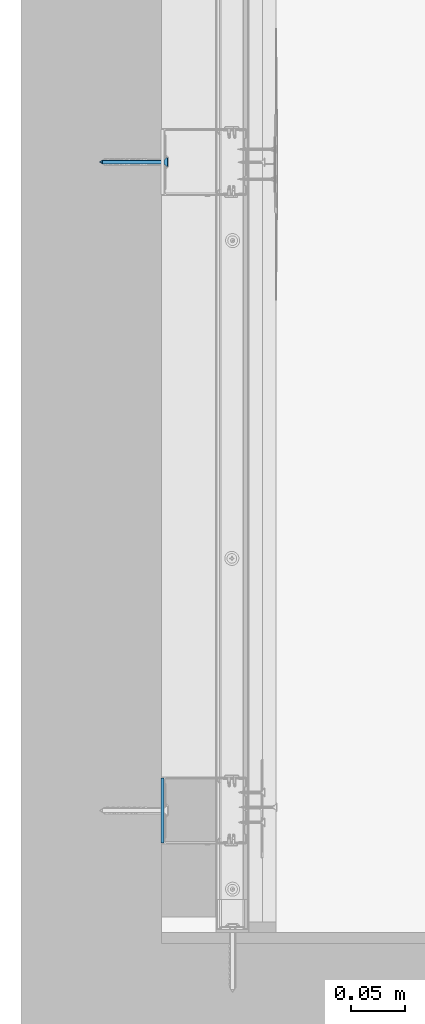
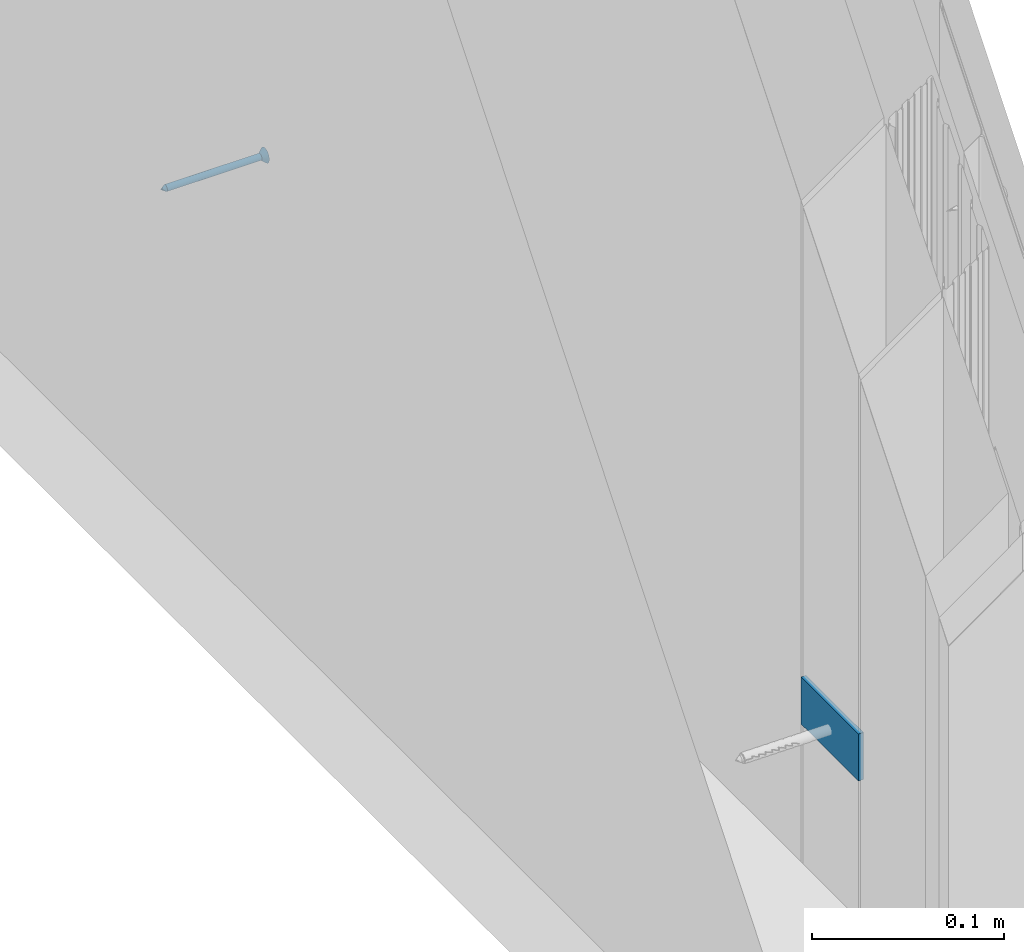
# One storey, part 31 of 61: 2 walls.
"""IFC2X3 building model written with IfcOpenShell, lengths in millimetres."""

import ifcopenshell
import ifcopenshell.guid

model = None  # the IFC model being written
_history = None  # IfcOwnerHistory: only IFC2X3 demands one
_inside = {}  # id of a spatial element -> (the spatial element, [elements in it])
_under = {}  # id of a project, library or spatial element -> (it, [spatial elements below it])
_declared = {}  # id of a project -> (the project, [libraries it declares])
_typed = {}  # id of a type object -> (the type object, [elements of that type])
_made_of = {}  # id of a material, layer set ... -> (it, [elements and type objects made of it])


def new_model(schema):
    """Start an empty IFC model of exactly this schema.

    Asked for "IFC4X3", IfcOpenShell would pick the latest addendum, in which some entities
    have other attributes; the version numbers below select the first issue.
    IFC2X3 requires an IfcOwnerHistory on every rooted entity: one is made here for all.
    """
    global model, _history
    if schema == "IFC4X3":
        model = ifcopenshell.file(schema_version=(4, 3, 0, 0))
    else:
        model = ifcopenshell.file(schema=schema)
    _inside.clear()
    _under.clear()
    _declared.clear()
    _typed.clear()
    _made_of.clear()
    _history = None
    if model.schema == "IFC2X3":
        org = make("IfcOrganization", Name="unknown")
        user = make(
            "IfcPersonAndOrganization",
            ThePerson=make("IfcPerson", FamilyName="unknown"),
            TheOrganization=org,
        )
        app = make(
            "IfcApplication",
            ApplicationDeveloper=org,
            Version="unknown",
            ApplicationFullName="unknown",
            ApplicationIdentifier="unknown",
        )
        _history = make(
            "IfcOwnerHistory",
            OwningUser=user,
            OwningApplication=app,
            ChangeAction="ADDED",
            CreationDate=0,
        )
    return model


def make(cls, **values):
    """One entity of the class cls with the attributes given. An attribute that is None is left unset."""
    return model.create_entity(
        cls, **{name: value for name, value in values.items() if value is not None}
    )


def rooted(cls, **values):
    """An entity with a GlobalId (a new one), such as an element, a storey or a relation."""
    return make(cls, GlobalId=ifcopenshell.guid.new(), OwnerHistory=_history, **values)


def si_unit(unit_type, name, prefix=None):
    """IfcSIUnit, for example si_unit("LENGTHUNIT", "METRE", prefix="MILLI")."""
    return make("IfcSIUnit", UnitType=unit_type, Prefix=prefix, Name=name)


def assignment(units):
    """IfcUnitAssignment: the units of a project."""
    return None if units is None else make("IfcUnitAssignment", Units=units)


def point(xyz):
    """IfcCartesianPoint."""
    return None if xyz is None else make("IfcCartesianPoint", Coordinates=xyz)


def direction(xyz):
    """IfcDirection."""
    return None if xyz is None else make("IfcDirection", DirectionRatios=xyz)


def frame(location, z_axis=None, x_axis=None):
    """IfcAxis2Placement3D, a coordinate frame: its origin and axes. An axis left out is left unset."""
    return make(
        "IfcAxis2Placement3D",
        Location=point(location),
        Axis=direction(z_axis),
        RefDirection=direction(x_axis),
    )


def origin_with_axes():
    """The frame at (0, 0, 0) with the z axis (0, 0, 1) and the x axis (1, 0, 0) written out."""
    return frame((0.0, 0.0, 0.0), z_axis=(0.0, 0.0, 1.0), x_axis=(1.0, 0.0, 0.0))


def place(relative_to, where):
    """IfcLocalPlacement: puts the frame where relative to a parent placement (None: the world)."""
    return make(
        "IfcLocalPlacement", PlacementRelTo=relative_to, RelativePlacement=where
    )


def context(
    kind, dimensions, precision=None, world=None, true_north=None, identifier=None
):
    """IfcGeometricRepresentationContext, for example the 3D "Model" context."""
    return make(
        "IfcGeometricRepresentationContext",
        ContextIdentifier=identifier,
        ContextType=kind,
        CoordinateSpaceDimension=dimensions,
        Precision=precision,
        WorldCoordinateSystem=world,
        TrueNorth=true_north,
    )


def subcontext(parent, identifier, kind, view, scale=None):
    """IfcGeometricRepresentationSubContext, for example "Body" below "Model"."""
    return make(
        "IfcGeometricRepresentationSubContext",
        ContextIdentifier=identifier,
        ContextType=kind,
        ParentContext=parent,
        TargetScale=scale,
        TargetView=view,
    )


def project(units=None, contexts=None):
    """IfcProject with its units and contexts."""
    return rooted(
        "IfcProject",
        Name="project",
        RepresentationContexts=contexts,
        UnitsInContext=assignment(units),
    )


def spatial(cls, under=None, at=None, **own):
    """A site, building, storey or space (cls), placed at a placement, below another one or the project."""
    s = rooted(cls, ObjectPlacement=at, **own)
    if under is not None:
        _under.setdefault(under.id(), (under, []))[1].append(s)
    return s


def faces_of(points, faces, orient=None, outer=None):
    """IfcFace entities. A face is a list of loops; a loop is a list of indices into points, from 0.

    orient and outer hold one flag for each loop. By default every Orientation is true, the
    first loop of a face is its IfcFaceOuterBound and the others are IfcFaceBound.
    """
    made = []
    for i, loops in enumerate(faces):
        bounds = []
        for j, loop in enumerate(loops):
            is_outer = j == 0 if outer is None else outer[i][j]
            bounds.append(
                make(
                    "IfcFaceOuterBound" if is_outer else "IfcFaceBound",
                    Bound=make("IfcPolyLoop", Polygon=[points[k] for k in loop]),
                    Orientation=True if orient is None else orient[i][j],
                )
            )
        made.append(make("IfcFace", Bounds=bounds))
    return made


def faceted_brep(points, faces, orient=None, outer=None, voids=None):
    """IfcFacetedBrep: a solid bounded by flat faces; with voids (closed shells), ...WithVoids."""
    shared = [point(p) for p in points]
    hull = make("IfcClosedShell", CfsFaces=faces_of(shared, faces, orient, outer))
    if voids is None:
        return make("IfcFacetedBrep", Outer=hull)
    return make(
        "IfcFacetedBrepWithVoids",
        Outer=hull,
        Voids=[
            make(cls, CfsFaces=faces_of(shared, fs, o, b)) for cls, fs, o, b in voids
        ],
    )


def shape(context_of_items, identifier, shape_type, items):
    """IfcShapeRepresentation: the items that make up one representation, for example the "Body"."""
    return make(
        "IfcShapeRepresentation",
        ContextOfItems=context_of_items,
        RepresentationIdentifier=identifier,
        RepresentationType=shape_type,
        Items=items,
    )


def material(Name=None, Category=None):
    """IfcMaterial."""
    return make("IfcMaterial", Name=Name, Category=Category)


def made_of(thing, what):
    """Note that an element or type object is made of a material, layer set ...; save() writes the relation."""
    if what is not None:
        _made_of.setdefault(what.id(), (what, []))[1].append(thing)
    return thing


def type_object(cls, material=None, **own):
    """A type object (cls), such as IfcWallType, which elements share."""
    return made_of(rooted(cls, **own), material)


def element(
    cls,
    number,
    at=None,
    inside=None,
    cuts=None,
    type_object=None,
    material=None,
    context=None,
    identifier="Body",
    shape_type=None,
    held_by="IfcProductDefinitionShape",
    body=None,
    shapes=None,
    **own,
):
    """One element of the class cls, such as IfcWall. Its Tag is "e" and its number.

    at: its placement. inside: the storey or other place that contains it. cuts: it is an
    opening in that element (IfcRelVoidsElement). A single representation is given by context,
    identifier, shape_type and body (its items); several are given by shapes. held_by: the class
    of the entity that holds the representations. save() writes the other relations.
    """
    e = rooted(cls, Tag="e%d" % number, ObjectPlacement=at, **own)
    if body is not None:
        shapes = [shape(context, identifier, shape_type, body)]
    if shapes is not None:
        e.Representation = make(held_by, Representations=shapes)
    if inside is not None:
        _inside.setdefault(inside.id(), (inside, []))[1].append(e)
    if cuts is not None:
        rooted(
            "IfcRelVoidsElement", RelatingBuildingElement=cuts, RelatedOpeningElement=e
        )
    if type_object is not None:
        _typed.setdefault(type_object.id(), (type_object, []))[1].append(e)
    return made_of(e, material)


def aggregate(whole, parts):
    """IfcRelAggregates: a whole, such as a stair, and the parts it consists of."""
    return rooted("IfcRelAggregates", RelatingObject=whole, RelatedObjects=parts)


def save(model, path):
    """Write the relations noted so far, then the file.

    IfcRelAggregates (storeys below a building ...), IfcRelContainedInSpatialStructure (elements
    in a storey), IfcRelDefinesByType, IfcRelAssociatesMaterial and IfcRelDeclares: one each for
    every whole, place, type object, material and project.
    """
    for whole, parts in _under.values():
        aggregate(whole, parts)
    for where, things in _inside.values():
        rooted(
            "IfcRelContainedInSpatialStructure",
            RelatedElements=things,
            RelatingStructure=where,
        )
    for kind, things in _typed.values():
        rooted("IfcRelDefinesByType", RelatedObjects=things, RelatingType=kind)
    for what, things in _made_of.values():
        rooted("IfcRelAssociatesMaterial", RelatedObjects=things, RelatingMaterial=what)
    for by, libraries in _declared.values():
        rooted("IfcRelDeclares", RelatingContext=by, RelatedDefinitions=libraries)
    model.write(path)


model = new_model("IFC2X3")

# Units and contexts
model_context = context("Model", 3, world=origin_with_axes())
body_context = subcontext(model_context, "Body", "Model", "MODEL_VIEW")
ifc_project = project(units=[si_unit("LENGTHUNIT", "METRE", prefix="MILLI"), si_unit("AREAUNIT", "SQUARE_METRE"), si_unit("VOLUMEUNIT", "CUBIC_METRE")], contexts=[model_context])

# Site, building, storey
site_placement = place(None, frame((2152.1410261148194, -2015.0250894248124, 57.61556563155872), z_axis=(0.0, 0.0, 1.0), x_axis=(-1.1102230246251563e-16, 1.0, 0.0)))
site = spatial("IfcSite", under=ifc_project, at=site_placement, Name="Default Site", CompositionType="ELEMENT")
building_placement = place(site_placement, origin_with_axes())
building = spatial("IfcBuilding", under=site, at=building_placement, Name="Default Building", CompositionType="ELEMENT")
storey_placement = place(building_placement, origin_with_axes())
storey = spatial("IfcBuildingStorey", under=building, at=storey_placement, Name="Default Building Storey", CompositionType="ELEMENT", Elevation=57.61556563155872)

# Walls
ifc_material = material(Name="Default")
wall_type_1 = type_object("IfcWallType", Name="Kołek rozporowy min. fi 6#13", PredefinedType="NOTDEFINED")
wall_1_placement = place(storey_placement, frame((6291.176283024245, 2016.3286110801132, 1539.6718902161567), z_axis=(-6.858158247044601e-13, -1.0, 7.64238051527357e-14), x_axis=(-1.6476028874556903e-11, 7.642380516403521e-14, 1.0)))
element("IfcWall", 1, at=wall_1_placement, inside=storey, type_object=wall_type_1, material=ifc_material, Name="Kołek rozporowy min. fi 6", context=body_context, shape_type="Brep", body=[
    faceted_brep([(-1438.3141994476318, 3453.2833099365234, -0.46425670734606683), (-1435.8141422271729, 3453.2833099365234, -3.464256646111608), (-1435.7895851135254, 3452.970266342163, -3.464256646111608), (-1438.2587671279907, 3452.579259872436, -0.46425670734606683), (-1435.7162714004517, 3452.6650905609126, -3.464256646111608), (-1438.093900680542, 3451.892614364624, -0.46425670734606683), (-1435.5961084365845, 3452.3751735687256, -3.464256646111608), (-1437.8236532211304, 3451.240301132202, -0.46425670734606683), (-1435.4321956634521, 3452.107667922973, -3.464256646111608), (-1437.4547004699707, 3450.6382942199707, -0.46425670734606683), (-1435.22834777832, 3451.8690109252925, -3.464256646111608), (-1436.9961023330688, 3450.101137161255, -0.46425670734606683), (-1434.9896907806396, 3451.665163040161, -3.464256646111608), (-1436.4591836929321, 3449.642658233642, -0.46425670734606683), (-1434.7221851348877, 3451.501131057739, -3.464256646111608), (-1435.8570575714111, 3449.2735862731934, -0.46425670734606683), (-1434.4321489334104, 3451.381206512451, -3.464256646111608), (-1435.2047443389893, 3449.0034580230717, -0.46425670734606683), (-1434.1269731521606, 3451.307773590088, -3.464256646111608), (-1434.5180988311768, 3448.838710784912, -0.46425670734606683), (-1433.8141679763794, 3451.28321647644, -3.464256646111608), (-1433.8141679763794, 3448.7831592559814, -0.46425670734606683), (-1433.5012435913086, 3451.307773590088, -3.464256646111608), (-1433.110237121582, 3448.838710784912, -0.46425670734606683), (-1433.1960678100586, 3451.381206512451, -3.464256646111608), (-1432.4235916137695, 3449.0034580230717, -0.46425670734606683), (-1432.9061508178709, 3451.501131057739, -3.464256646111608), (-1431.771159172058, 3449.2735862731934, -0.46425670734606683), (-1432.6385259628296, 3451.665163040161, -3.464256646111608), (-1431.1691522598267, 3449.642658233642, -0.46425670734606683), (-1432.3999881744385, 3451.8690109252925, -3.464256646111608), (-1430.6321144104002, 3450.101137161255, -0.46425670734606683), (-1432.1961402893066, 3452.107667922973, -3.464256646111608), (-1430.1735162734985, 3450.6382942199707, -0.46425670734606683), (-1432.0321083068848, 3452.3751735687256, -3.464256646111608), (-1429.8045635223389, 3451.240301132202, -0.46425670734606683), (-1431.9120645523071, 3452.6650905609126, -3.464256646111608), (-1429.5344352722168, 3451.892614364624, -0.46425670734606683), (-1431.8387508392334, 3453.5961151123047, -3.464256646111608), (-1429.369568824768, 3453.9871215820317, -0.46425670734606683), (-1429.314136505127, 3453.2833099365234, -0.46425670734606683), (-1431.814193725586, 3453.2833099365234, -3.464256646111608), (-1429.369568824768, 3452.579259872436, -0.46425670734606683), (-1431.8387508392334, 3452.970266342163, -3.464256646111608), (-1431.9120645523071, 3453.9012908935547, -3.464256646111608), (-1429.5344352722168, 3454.6737670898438, -0.46425670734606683), (-1432.0321083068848, 3454.191207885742, -3.464256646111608), (-1429.8045635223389, 3455.3260803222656, -0.46425670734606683), (-1432.1961402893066, 3454.458713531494, -3.464256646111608), (-1430.1735162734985, 3455.9283256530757, -0.46425670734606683), (-1432.3999881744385, 3454.6973705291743, -3.464256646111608), (-1430.6321144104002, 3456.465244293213, -0.46425670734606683), (-1432.6385259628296, 3454.9012184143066, -3.464256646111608), (-1431.1691522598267, 3456.923723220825, -0.46425670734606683), (-1432.9061508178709, 3455.065250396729, -3.464256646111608), (-1431.771159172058, 3457.2927951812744, -0.46425670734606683), (-1433.1960678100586, 3455.1854133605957, -3.464256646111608), (-1432.4235916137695, 3457.562923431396, -0.46425670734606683), (-1433.5012435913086, 3455.25860786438, -3.464256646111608), (-1433.110237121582, 3457.7279090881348, -0.46425670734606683), (-1433.8141679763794, 3455.283164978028, -3.464256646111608), (-1433.8141679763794, 3457.7832221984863, -0.46425670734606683), (-1434.3430995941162, 3457.7519893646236, -0.46425670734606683), (-1434.1269731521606, 3455.25860786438, -3.464256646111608), (-1434.4321489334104, 3455.1854133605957, -3.464256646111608), (-1434.8646402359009, 3457.6590061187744, -0.46425670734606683), (-1435.3716373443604, 3457.504987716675, -0.46425670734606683), (-1434.7221851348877, 3455.065250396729, -3.464256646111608), (-1435.8570575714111, 3457.2927951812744, -0.46425670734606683), (-1434.9896907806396, 3454.9012184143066, -3.464256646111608), (-1435.22834777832, 3454.6973705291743, -3.464256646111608), (-1436.3142251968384, 3457.024812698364, -0.46425670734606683), (-1436.7367029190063, 3456.705093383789, -0.46425670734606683), (-1437.118649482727, 3456.337928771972, -0.46425670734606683), (-1437.4547004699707, 3455.9283256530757, -0.46425670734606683), (-1435.4321956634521, 3454.458713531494, -3.464256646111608), (-1435.5961084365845, 3454.191207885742, -3.464256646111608), (-1437.8236532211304, 3455.3260803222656, -0.46425670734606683), (-1435.7162714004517, 3453.9012908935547, -3.464256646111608), (-1438.093900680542, 3454.6737670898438, -0.46425670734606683), (-1435.7895851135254, 3453.5961151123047, -3.464256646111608), (-1438.2587671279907, 3453.9871215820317, -0.46425670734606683), (-1434.2052936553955, 3455.752372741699, 0.20073754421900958), (-1433.8141679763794, 3455.7831287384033, 0.20073754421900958), (-1434.5866441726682, 3455.6608200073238, 0.20073754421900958), (-1434.9491596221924, 3455.510854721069, 0.20073754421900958), (-1435.2836608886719, 3455.305814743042, 0.20073754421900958), (-1435.581922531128, 3455.0509452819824, 0.20073754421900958), (-1435.836672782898, 3454.7526836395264, 0.20073754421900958), (-1436.0417127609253, 3454.418182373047, 0.20073754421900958), (-1436.1917972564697, 3454.0557861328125, 0.20073754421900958), (-1436.2833499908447, 3453.6743164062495, 0.20073754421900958), (-1436.3141059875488, 3453.2833099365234, 0.20073754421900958), (-1436.2833499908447, 3452.8920650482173, 0.20073754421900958), (-1436.1917972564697, 3452.5105953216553, 0.20073754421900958), (-1436.0417127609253, 3452.148199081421, 0.20073754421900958), (-1435.836672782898, 3451.8136978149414, 0.20073754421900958), (-1435.581922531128, 3451.5154361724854, 0.20073754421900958), (-1435.2836608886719, 3451.260566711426, 0.20073754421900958), (-1434.9491596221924, 3451.0557651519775, 0.20073754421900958), (-1434.5866441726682, 3450.905561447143, 0.20073754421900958), (-1433.4230422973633, 3450.8140087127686, 0.20073754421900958), (-1433.8141679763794, 3450.7832527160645, 0.20073754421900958), (-1434.2052936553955, 3450.8140087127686, 0.20073754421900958), (-1433.0415725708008, 3450.905561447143, 0.20073754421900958), (-1432.6791763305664, 3451.0557651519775, 0.20073754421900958), (-1432.344675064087, 3451.260566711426, 0.20073754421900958), (-1432.0464134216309, 3451.5154361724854, 0.20073754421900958), (-1431.7916631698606, 3451.8136978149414, 0.20073754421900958), (-1431.5866231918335, 3452.148199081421, 0.20073754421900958), (-1431.436538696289, 3452.5105953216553, 0.20073754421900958), (-1431.344985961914, 3452.8920650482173, 0.20073754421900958), (-1431.3141107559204, 3453.2833099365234, 0.20073754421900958), (-1431.344985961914, 3453.6743164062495, 0.20073754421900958), (-1431.436538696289, 3454.0557861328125, 0.20073754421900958), (-1431.5866231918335, 3454.418182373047, 0.20073754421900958), (-1431.7916631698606, 3454.7526836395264, 0.20073754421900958), (-1432.0464134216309, 3455.0509452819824, 0.20073754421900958), (-1432.344675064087, 3455.305814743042, 0.20073754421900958), (-1432.6791763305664, 3455.510854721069, 0.20073754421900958), (-1433.0415725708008, 3455.6608200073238, 0.20073754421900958), (-1433.4230422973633, 3455.752372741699, 0.20073754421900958), (-1433.8141679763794, 3453.2833099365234, -63.46425414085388), (-1435.7895851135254, 3452.970266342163, -60.464255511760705), (-1435.8141422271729, 3453.2833099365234, -60.464255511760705), (-1435.7162714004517, 3452.6650905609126, -60.464255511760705), (-1435.5961084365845, 3452.3751735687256, -60.464255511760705), (-1435.4321956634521, 3452.107667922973, -60.464255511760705), (-1435.22834777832, 3451.8690109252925, -60.464255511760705), (-1434.9896907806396, 3451.665163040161, -60.464255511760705), (-1434.7221851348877, 3451.501131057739, -60.464255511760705), (-1434.4321489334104, 3451.381206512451, -60.464255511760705), (-1434.1269731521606, 3451.307773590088, -60.464255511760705), (-1433.8141679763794, 3451.28321647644, -60.464255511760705), (-1433.5012435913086, 3451.307773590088, -60.464255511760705), (-1433.1960678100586, 3451.381206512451, -60.464255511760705), (-1432.9061508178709, 3451.501131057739, -60.464255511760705), (-1432.6385259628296, 3451.665163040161, -60.464255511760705), (-1432.3999881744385, 3451.8690109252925, -60.464255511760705), (-1432.1961402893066, 3452.107667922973, -60.464255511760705), (-1432.0321083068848, 3452.3751735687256, -60.464255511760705), (-1431.9120645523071, 3452.6650905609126, -60.464255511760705), (-1431.8387508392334, 3452.970266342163, -60.464255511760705), (-1431.814193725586, 3453.2833099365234, -60.464255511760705), (-1431.8387508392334, 3453.5961151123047, -60.464255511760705), (-1431.9120645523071, 3453.9012908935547, -60.464255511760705), (-1432.0321083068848, 3454.191207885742, -60.464255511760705), (-1432.1961402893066, 3454.458713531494, -60.464255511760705), (-1432.3999881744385, 3454.6973705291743, -60.464255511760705), (-1432.6385259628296, 3454.9012184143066, -60.464255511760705), (-1432.9061508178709, 3455.065250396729, -60.464255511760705), (-1433.1960678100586, 3455.1854133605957, -60.464255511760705), (-1433.5012435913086, 3455.25860786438, -60.464255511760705), (-1433.8141679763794, 3455.283164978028, -60.464255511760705), (-1434.1269731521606, 3455.25860786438, -60.464255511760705), (-1434.4321489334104, 3455.1854133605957, -60.464255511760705), (-1434.7221851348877, 3455.065250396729, -60.464255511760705), (-1434.9896907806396, 3454.9012184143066, -60.464255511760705), (-1435.22834777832, 3454.6973705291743, -60.464255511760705), (-1435.4321956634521, 3454.458713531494, -60.464255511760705), (-1435.5961084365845, 3454.191207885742, -60.464255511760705), (-1435.7162714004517, 3453.9012908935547, -60.464255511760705), (-1435.7895851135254, 3453.5961151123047, -60.464255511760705), (-1436.0417127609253, 3454.418182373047, 0.049999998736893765), (-1436.1917972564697, 3454.0557861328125, 0.049999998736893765), (-1436.2833499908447, 3453.6743164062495, 0.049999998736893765), (-1436.3141059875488, 3453.2833099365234, 0.049999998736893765), (-1436.2833499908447, 3452.8920650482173, 0.049999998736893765), (-1436.1917972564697, 3452.5105953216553, 0.049999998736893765), (-1436.0417127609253, 3452.148199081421, 0.049999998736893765), (-1435.836672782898, 3451.8136978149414, 0.049999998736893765), (-1435.581922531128, 3451.5154361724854, 0.049999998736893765), (-1435.2836608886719, 3451.260566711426, 0.049999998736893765), (-1434.9491596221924, 3451.0557651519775, 0.049999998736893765), (-1434.5866441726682, 3450.905561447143, 0.049999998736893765), (-1434.2052936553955, 3450.8140087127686, 0.049999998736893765), (-1433.8141679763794, 3450.7832527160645, 0.049999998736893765), (-1433.4230422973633, 3450.8140087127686, 0.049999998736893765), (-1433.0415725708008, 3450.905561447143, 0.049999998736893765), (-1432.6791763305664, 3451.0557651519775, 0.049999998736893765), (-1432.344675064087, 3451.260566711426, 0.049999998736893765), (-1432.0464134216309, 3451.5154361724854, 0.049999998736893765), (-1431.7916631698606, 3451.8136978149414, 0.049999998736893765), (-1431.5866231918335, 3452.148199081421, 0.049999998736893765), (-1431.436538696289, 3452.5105953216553, 0.049999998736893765), (-1431.344985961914, 3452.8920650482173, 0.049999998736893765), (-1431.3141107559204, 3453.2833099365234, 0.049999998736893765), (-1431.344985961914, 3453.6743164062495, 0.049999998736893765), (-1431.436538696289, 3454.0557861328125, 0.049999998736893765), (-1431.5866231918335, 3454.418182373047, 0.049999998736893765), (-1431.7916631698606, 3454.7526836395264, 0.049999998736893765), (-1432.0464134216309, 3455.0509452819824, 0.049999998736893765), (-1432.344675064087, 3455.305814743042, 0.049999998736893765), (-1432.6791763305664, 3455.510854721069, 0.049999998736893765), (-1433.0415725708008, 3455.6608200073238, 0.049999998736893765), (-1433.4230422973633, 3455.752372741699, 0.049999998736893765), (-1433.8141679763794, 3455.7831287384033, 0.049999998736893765), (-1434.2052936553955, 3455.752372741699, 0.049999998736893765), (-1434.5866441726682, 3455.6608200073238, 0.049999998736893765), (-1434.9491596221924, 3455.510854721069, 0.049999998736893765), (-1435.2836608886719, 3455.305814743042, 0.049999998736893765), (-1435.581922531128, 3455.0509452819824, 0.049999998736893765), (-1435.836672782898, 3454.7526836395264, 0.049999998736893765), (-1434.3141317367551, 3452.7831077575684, 0.049999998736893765), (-1435.8141422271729, 3452.7831077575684, 0.049999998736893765), (-1435.8141422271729, 3453.7832736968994, 0.049999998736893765), (-1434.3141317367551, 3453.7832736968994, 0.049999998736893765), (-1434.3141317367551, 3455.283164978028, 0.049999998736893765), (-1433.3142042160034, 3455.283164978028, 0.049999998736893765), (-1433.3142042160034, 3453.7832736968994, 0.049999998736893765), (-1431.814193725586, 3453.7832736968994, 0.049999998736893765), (-1431.814193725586, 3452.7831077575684, 0.049999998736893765), (-1433.3142042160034, 3452.7831077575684, 0.049999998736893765), (-1433.3142042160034, 3451.28321647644, 0.049999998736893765), (-1434.3141317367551, 3451.28321647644, 0.049999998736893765), (-1434.3141317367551, 3452.7831077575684, -1.799262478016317), (-1434.3141317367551, 3451.28321647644, -1.799262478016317), (-1433.3142042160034, 3451.28321647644, -1.799262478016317), (-1433.3142042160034, 3452.7831077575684, -1.799262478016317), (-1431.814193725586, 3452.7831077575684, -1.799262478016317), (-1431.814193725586, 3453.7832736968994, -1.799262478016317), (-1433.3142042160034, 3453.7832736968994, -1.799262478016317), (-1433.3142042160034, 3455.283164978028, -1.799262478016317), (-1434.3141317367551, 3455.283164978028, -1.799262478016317), (-1434.3141317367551, 3453.7832736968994, -1.799262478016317), (-1435.8141422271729, 3453.7832736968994, -1.799262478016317), (-1435.8141422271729, 3452.7831077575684, -1.799262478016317)], [[[0, 1, 2, 3]], [[4, 5, 3, 2]], [[6, 7, 5, 4]], [[7, 6, 8, 9]], [[10, 11, 9, 8]], [[11, 10, 12, 13]], [[14, 15, 13, 12]], [[16, 17, 15, 14]], [[17, 16, 18, 19]], [[20, 21, 19, 18]], [[21, 20, 22, 23]], [[24, 25, 23, 22]], [[26, 27, 25, 24]], [[27, 26, 28, 29]], [[30, 31, 29, 28]], [[31, 30, 32, 33]], [[34, 35, 33, 32]], [[36, 37, 35, 34]], [[38, 39, 40, 41]], [[41, 40, 42, 43]], [[37, 36, 43, 42]], [[44, 45, 39, 38]], [[46, 47, 45, 44]], [[47, 46, 48, 49]], [[50, 51, 49, 48]], [[51, 50, 52, 53]], [[54, 55, 53, 52]], [[56, 57, 55, 54]], [[57, 56, 58, 59]], [[60, 61, 59, 58]], [[62, 61, 63]], [[61, 60, 63]], [[63, 64, 62]], [[64, 65, 62]], [[66, 65, 64]], [[64, 67, 66]], [[67, 68, 66]], [[69, 70, 71]], [[70, 72, 71]], [[71, 68, 69]], [[68, 67, 69]], [[70, 73, 72]], [[74, 73, 75]], [[73, 70, 75]], [[76, 77, 74, 75]], [[78, 79, 77, 76]], [[79, 78, 80, 81]], [[1, 0, 81, 80]], [[82, 83, 62]], [[83, 61, 62]], [[62, 65, 82]], [[65, 84, 82]], [[66, 68, 84]], [[68, 85, 84]], [[84, 65, 66]], [[86, 85, 71]], [[85, 68, 71]], [[72, 73, 87]], [[87, 86, 72]], [[86, 71, 72]], [[88, 87, 74]], [[87, 73, 74]], [[77, 89, 88, 74]], [[79, 90, 89, 77]], [[90, 79, 81, 91]], [[0, 92, 91, 81]], [[92, 0, 3, 93]], [[5, 94, 93, 3]], [[7, 95, 94, 5]], [[95, 7, 9, 96]], [[11, 97, 96, 9]], [[97, 11, 13, 98]], [[15, 99, 98, 13]], [[17, 100, 99, 15]], [[23, 101, 102, 21]], [[21, 102, 103, 19]], [[100, 17, 19, 103]], [[25, 104, 101, 23]], [[27, 105, 104, 25]], [[105, 27, 29, 106]], [[31, 107, 106, 29]], [[107, 31, 33, 108]], [[35, 109, 108, 33]], [[37, 110, 109, 35]], [[110, 37, 42, 111]], [[40, 112, 111, 42]], [[112, 40, 39, 113]], [[45, 114, 113, 39]], [[47, 115, 114, 45]], [[115, 47, 49, 116]], [[51, 117, 116, 49]], [[117, 51, 53, 118]], [[55, 119, 118, 53]], [[57, 120, 119, 55]], [[120, 57, 59, 121]], [[61, 83, 121, 59]], [[122, 123, 124]], [[122, 125, 123]], [[122, 126, 125]], [[127, 126, 122]], [[122, 128, 127]], [[129, 128, 122]], [[122, 130, 129]], [[122, 131, 130]], [[132, 131, 122]], [[122, 133, 132]], [[134, 133, 122]], [[122, 135, 134]], [[122, 136, 135]], [[137, 136, 122]], [[122, 138, 137]], [[139, 138, 122]], [[122, 140, 139]], [[122, 141, 140]], [[142, 141, 122]], [[122, 143, 142]], [[144, 143, 122]], [[122, 145, 144]], [[122, 146, 145]], [[147, 146, 122]], [[122, 148, 147]], [[149, 148, 122]], [[122, 150, 149]], [[122, 151, 150]], [[152, 151, 122]], [[122, 153, 152]], [[154, 153, 122]], [[122, 155, 154]], [[122, 156, 155]], [[157, 156, 122]], [[122, 158, 157]], [[159, 158, 122]], [[122, 160, 159]], [[122, 161, 160]], [[162, 161, 122]], [[124, 162, 122]], [[1, 124, 123, 2]], [[125, 4, 2, 123]], [[126, 6, 4, 125]], [[6, 126, 127, 8]], [[128, 10, 8, 127]], [[10, 128, 129, 12]], [[130, 14, 12, 129]], [[131, 16, 14, 130]], [[16, 131, 132, 18]], [[133, 20, 18, 132]], [[20, 133, 134, 22]], [[135, 24, 22, 134]], [[136, 26, 24, 135]], [[26, 136, 137, 28]], [[138, 30, 28, 137]], [[30, 138, 139, 32]], [[140, 34, 32, 139]], [[141, 36, 34, 140]], [[144, 38, 41, 143]], [[143, 41, 43, 142]], [[36, 141, 142, 43]], [[145, 44, 38, 144]], [[146, 46, 44, 145]], [[46, 146, 147, 48]], [[148, 50, 48, 147]], [[50, 148, 149, 52]], [[150, 54, 52, 149]], [[151, 56, 54, 150]], [[56, 151, 152, 58]], [[153, 60, 58, 152]], [[60, 153, 154, 63]], [[155, 64, 63, 154]], [[156, 67, 64, 155]], [[67, 156, 157, 69]], [[158, 70, 69, 157]], [[70, 158, 159, 75]], [[160, 76, 75, 159]], [[161, 78, 76, 160]], [[78, 161, 162, 80]], [[124, 1, 80, 162]], [[163, 164, 165, 166, 167, 168, 169, 170, 171, 172, 173, 174, 175, 176, 177, 178, 179, 180, 181, 182, 183, 184, 185, 186, 187, 188, 189, 190, 191, 192, 193, 194, 195, 196, 197, 198, 199, 200, 201, 202], [203, 204, 205, 206, 207, 208, 209, 210, 211, 212, 213, 214]], [[187, 186, 112, 113]], [[113, 114, 188, 187]], [[114, 115, 189, 188]], [[190, 189, 115, 116]], [[116, 117, 191, 190]], [[192, 191, 117, 118]], [[118, 119, 193, 192]], [[119, 120, 194, 193]], [[195, 194, 120, 121]], [[121, 83, 196, 195]], [[197, 196, 83, 82]], [[82, 84, 198, 197]], [[84, 85, 199, 198]], [[200, 199, 85, 86]], [[86, 87, 201, 200]], [[202, 201, 87, 88]], [[88, 89, 163, 202]], [[89, 90, 164, 163]], [[92, 93, 167, 166]], [[91, 92, 166, 165]], [[165, 164, 90, 91]], [[93, 94, 168, 167]], [[94, 95, 169, 168]], [[170, 169, 95, 96]], [[96, 97, 171, 170]], [[172, 171, 97, 98]], [[98, 99, 173, 172]], [[99, 100, 174, 173]], [[175, 174, 100, 103]], [[103, 102, 176, 175]], [[177, 176, 102, 101]], [[101, 104, 178, 177]], [[104, 105, 179, 178]], [[180, 179, 105, 106]], [[106, 107, 181, 180]], [[182, 181, 107, 108]], [[108, 109, 183, 182]], [[109, 110, 184, 183]], [[185, 184, 110, 111]], [[111, 112, 186, 185]], [[215, 216, 217, 218, 219, 220, 221, 222, 223, 224, 225, 226]], [[216, 214, 213, 217]], [[215, 203, 214, 216]], [[226, 204, 203, 215]], [[225, 205, 204, 226]], [[224, 206, 205, 225]], [[223, 207, 206, 224]], [[222, 208, 207, 223]], [[221, 209, 208, 222]], [[220, 210, 209, 221]], [[219, 211, 210, 220]], [[218, 212, 211, 219]], [[217, 213, 212, 218]]]),
])
wall_type_2 = type_object("IfcWallType", Name="Taśma uszczelniająca piankowa RIGIPS szer.30mm#1", PredefinedType="NOTDEFINED")
wall_2_placement = place(storey_placement, frame((2208.037086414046, 2019.7786110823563, 120.96024801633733), z_axis=(0.0, 0.0, 1.0), x_axis=(1.0, 0.0, 0.0)))
element("IfcWall", 2, at=wall_2_placement, inside=storey, type_object=wall_type_2, material=ifc_material, Name="Taśma uszczelniająca piankowa RIGIPS szer.30mm", context=body_context, shape_type="Brep", body=[
    faceted_brep([(59.99999865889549, 0.0, 4.511946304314e-12), (0.0, 0.0, 0.0), (1.0828671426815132e-12, -2.2379254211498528e-11, -29.999999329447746), (59.99999865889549, -2.2379254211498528e-11, -29.999999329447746), (0.0, 3.000000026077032, 0.0), (1.0828671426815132e-12, 3.000000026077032, -29.999999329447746), (59.99999865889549, 3.000000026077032, 0.0), (59.99999865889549, 3.000000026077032, -29.999999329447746)], [[[0, 1, 2, 3]], [[1, 4, 5, 2]], [[4, 6, 7, 5]], [[6, 0, 3, 7]], [[7, 3, 2, 5]], [[0, 6, 4, 1]]]),
])

save(model, "model.ifc")
